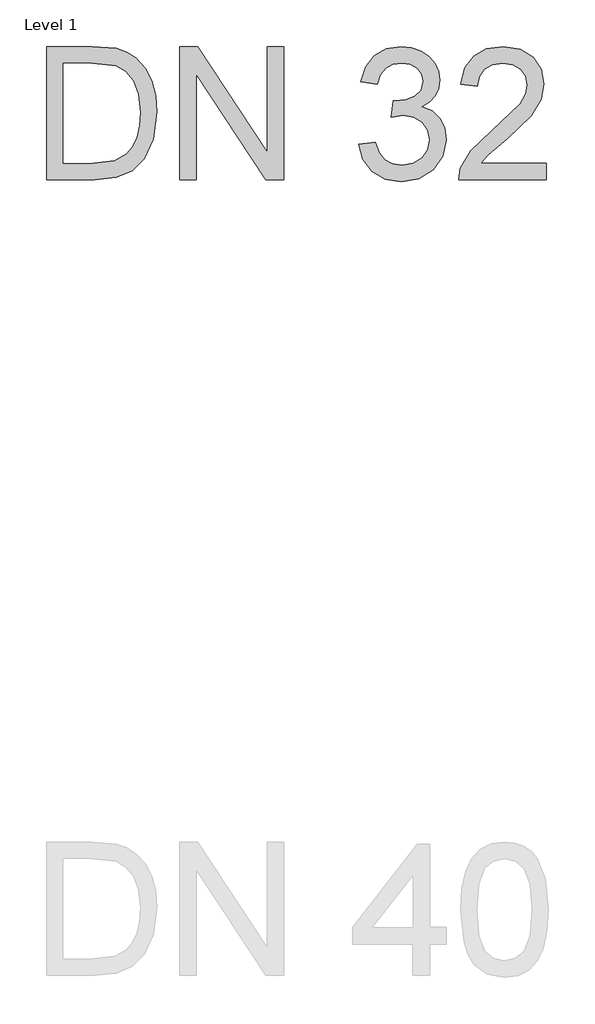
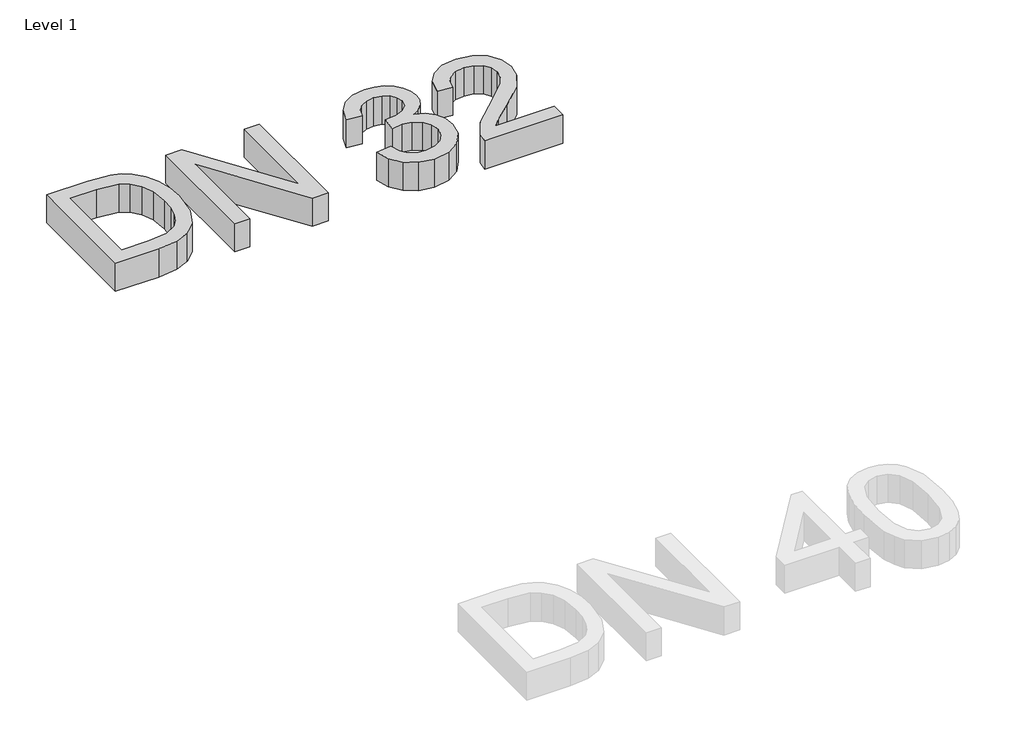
# One storey, part 26 of 26: 1 proxy.
"""IFC4 building model written with IfcOpenShell, lengths in millimetres."""

from ifc_helpers import new_model, si_unit, origin, origin_with_axes, place, context, project, spatial, polyline, outline, extrude, element, save

model = new_model("IFC4")

# Units and contexts
model_context = context("Model", 3, world=origin())
ifc_project = project(units=[si_unit("LENGTHUNIT", "METRE", prefix="MILLI")], contexts=[model_context])

# Site, building, storey
site = spatial("IfcSite", under=ifc_project)
building = spatial("IfcBuilding", under=site)
storey = spatial("IfcBuildingStorey", under=building, Name="Level 1", Elevation=0.0)

# Proxy
placement = place(None, origin())
element("IfcBuildingElementProxy", 1, Name="200mm Arial", ObjectType="200mm Arial", at=placement, inside=storey, context=model_context, shape_type="SweptSolid", body=[
    extrude(outline(polyline([(4539.3076926, 486.050427), (4539.3076926, 686.9630473), (4608.6166605, 686.9630473), (4644.4728923, 684.0690423), (4660.4880218, 678.4894987), (4674.0015538, 669.697119), (4687.8952305, 654.393228), (4697.7912562, 635.3614662), (4703.7141563, 612.9697154), (4705.6884563, 587.5858577), (4700.3419047, 547.0452618), (4686.6076435, 517.7863805), (4668.2625947, 499.563959), (4644.2521631, 489.4839923), (4611.9521239, 486.050427), (4539.3076926, 486.050427)]), holes=[polyline([(4564.4217702, 511.1645046), (4608.8619152, 511.1645046), (4641.1864798, 514.7942736), (4659.8258342, 525.0459185), (4668.5507689, 535.9168315), (4675.1051998, 549.9883178), (4679.207084, 567.3216911), (4680.5743788, 587.9782652), (4677.8949716, 615.3486856), (4669.85675, 635.5576699), (4657.9802929, 649.4390838), (4643.7861793, 657.8267933), (4608.1752021, 661.8489698), (4564.4217702, 661.8489698), (4564.4217702, 511.1645046)])]), origin_with_axes(), (0.0, 0.0, 1.0), 50.0),
    extrude(outline(polyline([(4740.2203129, 486.050427), (4740.2203129, 686.9630473), (4767.100224, 686.9630473), (4872.06922, 527.7927708), (4872.06922, 686.9630473), (4897.1832975, 686.9630473), (4897.1832975, 486.050427), (4870.3033864, 486.050427), (4765.3343905, 645.2697546), (4765.3343905, 486.050427), (4740.2203129, 486.050427)])), origin_with_axes(), (0.0, 0.0, 1.0), 50.0),
    extrude(outline(polyline([(5010.1966465, 539.4178418), (5035.310724, 542.5571015), (5040.9331872, 526.7749639), (5049.1676125, 516.1186488), (5060.4186702, 510.0485959), (5075.0910304, 508.0252449), (5092.3079078, 510.8088853), (5105.6007105, 519.1598066), (5114.0987846, 531.6187435), (5116.931476, 546.7264308), (5114.1233101, 561.0676972), (5105.6988124, 572.6988996), (5092.9455699, 580.4060274), (5077.1511696, 582.97507), (5059.5418847, 580.2282178), (5062.3377879, 605.3422953), (5066.3599644, 605.0479898), (5081.406338, 606.8506115), (5094.8585563, 612.2584769), (5104.3499118, 621.4064758), (5107.5136969, 634.4294984), (5105.2205658, 645.2758859), (5098.3411725, 654.074397), (5087.8442729, 659.9053266), (5074.6986229, 661.8489698), (5061.5284475, 659.8869325), (5050.7617678, 654.0008206), (5042.9013558, 644.190634), (5038.4499837, 630.4563729), (5013.3359061, 633.5956326), (5020.7303343, 656.1467989), (5033.8882469, 672.9835315), (5051.8899392, 683.4681684), (5073.8157062, 686.9630473), (5089.6039751, 685.2401333), (5104.1046571, 680.0713913), (5116.3306021, 671.9166737), (5125.29466, 661.2358331), (5130.7944958, 648.9301804), (5132.6277745, 635.9010264), (5130.8864663, 623.7609206), (5125.662542, 612.7489862), (5117.0295779, 603.3679953), (5105.0611503, 596.12072), (5120.7819742, 589.7686242), (5132.4315707, 578.9528936), (5139.6420578, 564.2621392), (5142.0455535, 546.2849724), (5137.2385621, 521.808557), (5122.8175879, 501.354318), (5101.0512365, 487.521955), (5074.2081136, 482.9111674), (5049.9279019, 486.8475047), (5030.1603761, 498.6565167), (5016.4138522, 516.7195227), (5010.1966465, 539.4178418)])), origin_with_axes(), (0.0, 0.0, 1.0), 50.0),
    extrude(outline(polyline([(5292.7300188, 511.1645046), (5292.7300188, 486.050427), (5160.8811117, 486.050427), (5163.578913, 503.3654063), (5178.833753, 530.0245882), (5210.2754009, 559.1363168), (5253.6364254, 600.9767623), (5261.7666175, 615.3977366), (5264.4766815, 629.4263033), (5261.9199017, 642.0017362), (5254.2495621, 652.4557162), (5242.4589441, 659.5006564), (5227.5413292, 661.8489698), (5211.8756876, 659.5558387), (5199.7049249, 652.6764454), (5191.8506443, 641.7503501), (5189.1344489, 627.3171132), (5164.0203714, 630.4563729), (5170.1088184, 654.7488473), (5183.2728625, 672.4930222), (5202.8257905, 683.3455411), (5228.0808895, 686.9630473), (5253.5199294, 682.9408709), (5273.0360693, 670.8743414), (5285.4520866, 652.8481237), (5289.5907591, 630.9468822), (5285.1271242, 607.1326544), (5270.289217, 582.5090862), (5234.3103579, 548.0998569), (5205.4193586, 523.9422725), (5194.0885931, 511.1645046), (5292.7300188, 511.1645046)])), origin_with_axes(), (0.0, 0.0, 1.0), 50.0),
])

save(model, "model.ifc")
